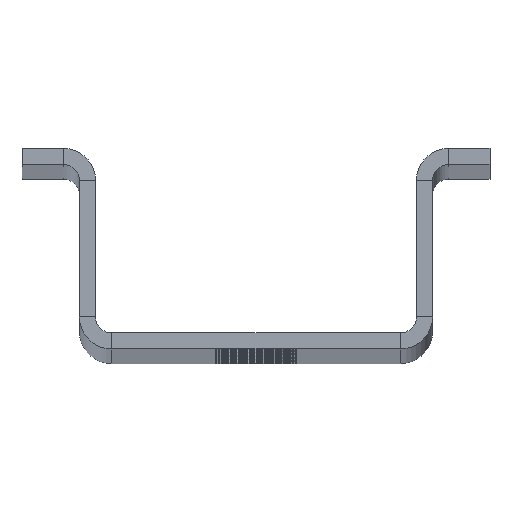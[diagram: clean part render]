
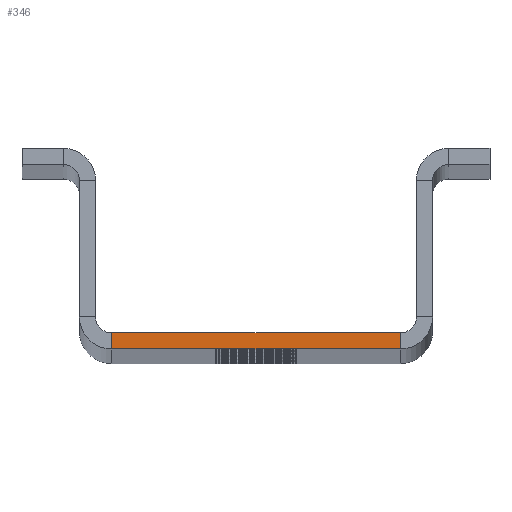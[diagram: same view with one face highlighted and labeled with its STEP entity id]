
A CAD part, top view. The second image highlights one B-rep face of the part: STEP entity #346.
In plain terms, the highlighted planar face has unit normal (0, 0, 1).
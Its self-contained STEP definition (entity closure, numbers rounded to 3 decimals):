
#346=ADVANCED_FACE('',(#1524),#1526,.T.);
#1524=FACE_BOUND('',#1525,.T.);
#1525=EDGE_LOOP('',(#2494,#2495,#2496,#2497));
#1526=PLANE('',#1527);
#1527=AXIS2_PLACEMENT_3D('',#1528,#1529,#1530);
#1528=CARTESIAN_POINT('',(12.,2.4,625.));
#1529=DIRECTION('',(0.,0.,1.));
#1530=DIRECTION('',(1.,0.,-0.));
#2494=ORIENTED_EDGE('',*,*,#3241,.F.);
#2495=ORIENTED_EDGE('',*,*,#3238,.T.);
#2496=ORIENTED_EDGE('',*,*,#3242,.T.);
#2497=ORIENTED_EDGE('',*,*,#3243,.T.);
#3238=EDGE_CURVE('',#3730,#3731,#3732,.T.);
#3241=EDGE_CURVE('',#3730,#3735,#3736,.T.);
#3242=EDGE_CURVE('',#3731,#3737,#3738,.T.);
#3243=EDGE_CURVE('',#3737,#3735,#3739,.T.);
#3730=VERTEX_POINT('',#4636);
#3731=VERTEX_POINT('',#4637);
#3732=LINE('',#4638,#4639);
#3735=VERTEX_POINT('',#4649);
#3736=LINE('',#4650,#4651);
#3737=VERTEX_POINT('',#4653);
#3738=LINE('',#4654,#4655);
#3739=LINE('',#4657,#4658);
#4636=CARTESIAN_POINT('',(10.8,0.,625.));
#4637=CARTESIAN_POINT('',(10.8,1.2,625.));
#4638=CARTESIAN_POINT('',(10.8,0.,625.));
#4639=VECTOR('',#4640,1.);
#4640=DIRECTION('',(0.,1.,0.));
#4649=CARTESIAN_POINT('',(-10.8,0.,625.));
#4650=CARTESIAN_POINT('',(10.8,0.,625.));
#4651=VECTOR('',#4652,1.);
#4652=DIRECTION('',(-1.,0.,0.));
#4653=CARTESIAN_POINT('',(-10.8,1.2,625.));
#4654=CARTESIAN_POINT('',(10.8,1.2,625.));
#4655=VECTOR('',#4656,1.);
#4656=DIRECTION('',(-1.,0.,0.));
#4657=CARTESIAN_POINT('',(-10.8,1.2,625.));
#4658=VECTOR('',#4659,1.);
#4659=DIRECTION('',(0.,-1.,0.));
